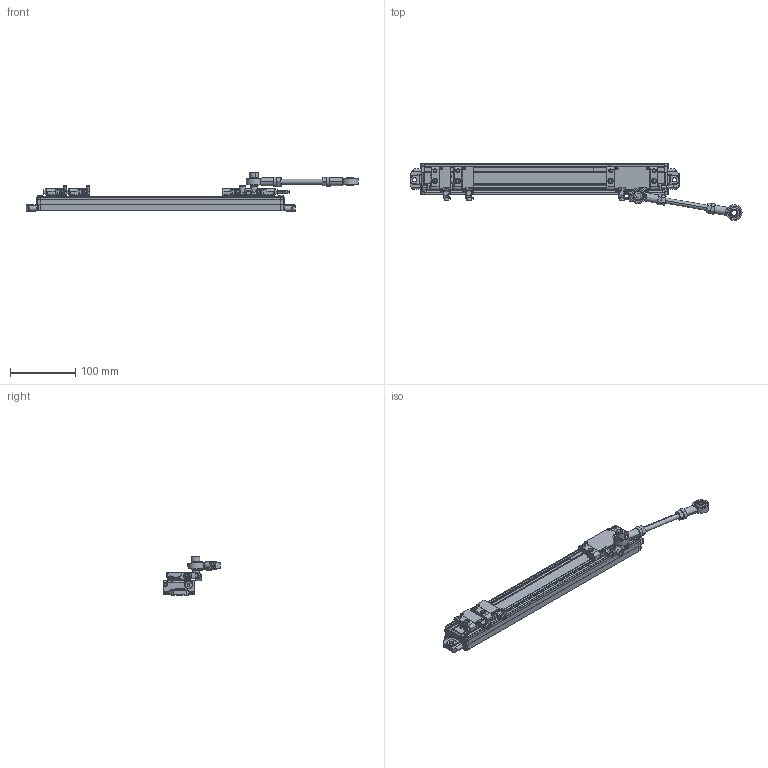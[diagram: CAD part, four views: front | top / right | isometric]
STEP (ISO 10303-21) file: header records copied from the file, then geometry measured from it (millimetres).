
FILE_DESCRIPTION(('Creo Elements/Direct Modeling STEP Export'),'2;1');
FILE_NAME('SERIE_PB-270.stp','2021-01-08T 9:30:52',(''),(''),'Creo Elements/Direct Modeling STEP processor for AP214 (Solid Model)','Creo Elements/Direct Modeling 19.0G 27-Nov-2017 (C) Parametric Technology GmbH','');
FILE_SCHEMA(('AUTOMOTIVE_DESIGN { 1 0 10303 214 1 1 1 1 }'));
Length unit declared in the file: millimetre
Products named in the file (15): SCALE_BLOCK_1; SCALE_BLOCK_2; IO; SCALE_BODY_270; SCALE_PB_270; READING_HEAD_BODY; BLOCK; COUPLING_BAR; COUPLING_BAR_BLOCK; READING_HEAD; READING_HEAD_BODY.1.1; BLOCK.1; COUPLING_BAR_BLOCK.1.1; READING_HEAD.1; PB_270
Assembly tree (16 placements, depth 4):
  PB_270
    READING_HEAD.1
      COUPLING_BAR_BLOCK.1.1  x2
        BLOCK.1
      READING_HEAD_BODY.1.1  x2
    READING_HEAD
      COUPLING_BAR_BLOCK
        COUPLING_BAR
        BLOCK
      READING_HEAD_BODY
    SCALE_PB_270
      SCALE_BODY_270
      IO
      SCALE_BLOCK_2
      SCALE_BLOCK_1
Bounding box: 510.72 x 87.83 x 59.41 mm (x, y, z)
Volume: 467211.2 mm3; surface area: 109997.1 mm2
Topology: 13 solids, 17 shells, 2778 faces, 7173 edges, 4419 vertices
Faces by surface type: plane 1149, cylinder 1013, bspline 318, torus 104, cone 100, sphere 85, extrusion 9
Entity records: 111595 total; most frequent: CARTESIAN_POINT 52811, ORIENTED_EDGE 12110, DIRECTION 10166, EDGE_CURVE 6047, VERTEX_POINT 3798, VECTOR 3396, LINE 3387, AXIS2_PLACEMENT_3D 3385
